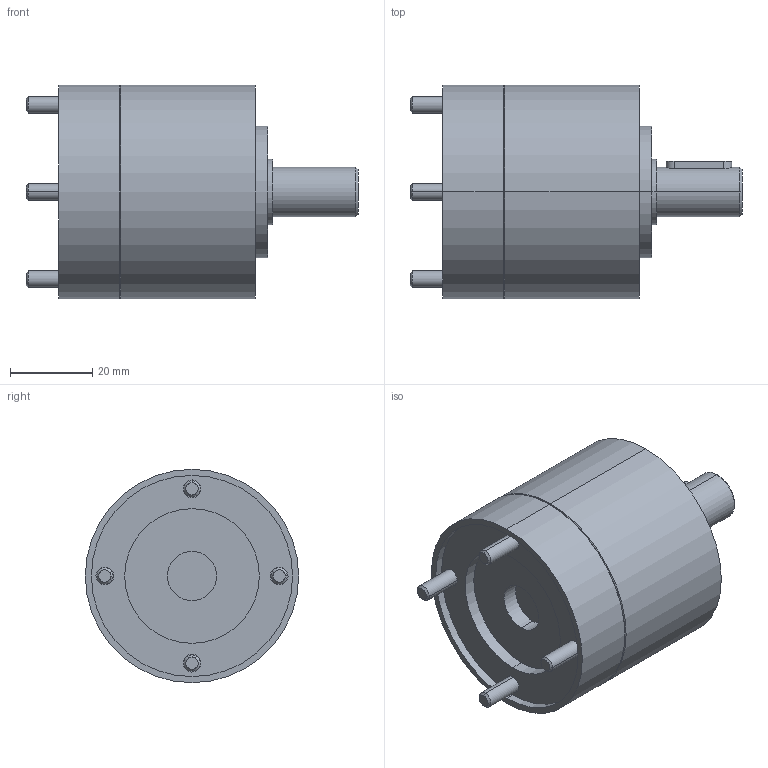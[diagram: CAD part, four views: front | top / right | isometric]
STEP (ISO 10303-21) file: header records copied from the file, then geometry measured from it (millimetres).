
FILE_DESCRIPTION (( 'STEP AP214' ), '1' );
FILE_NAME ('PM50-1stufig.STEP', '2012-09-19T12:48:51', ( ' ' ), ( '' ), 'SwSTEP 2.0', 'SolidWorks 2010', '' );
FILE_SCHEMA (( 'AUTOMOTIVE_DESIGN' ));
Length unit declared in the file: millimetre
Products named in the file (1): PM50-1stufig
Bounding box: 80.9 x 52 x 52 mm (x, y, z)
Volume: 99011.3 mm3; surface area: 20606 mm2
Topology: 5 solids, 5 shells, 162 faces, 342 edges, 209 vertices
Faces by surface type: cylinder 61, plane 60, cone 33, torus 8
Entity records: 5498 total; most frequent: DIRECTION 812, CARTESIAN_POINT 780, ORIENTED_EDGE 666, EDGE_CURVE 333, AXIS2_PLACEMENT_3D 319, VERTEX_POINT 209, EDGE_LOOP 190, LINE 174
